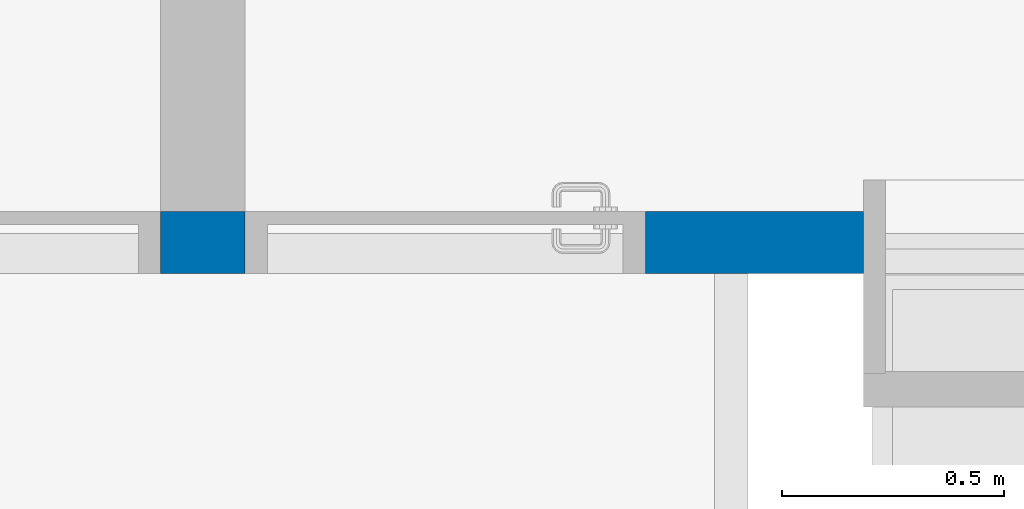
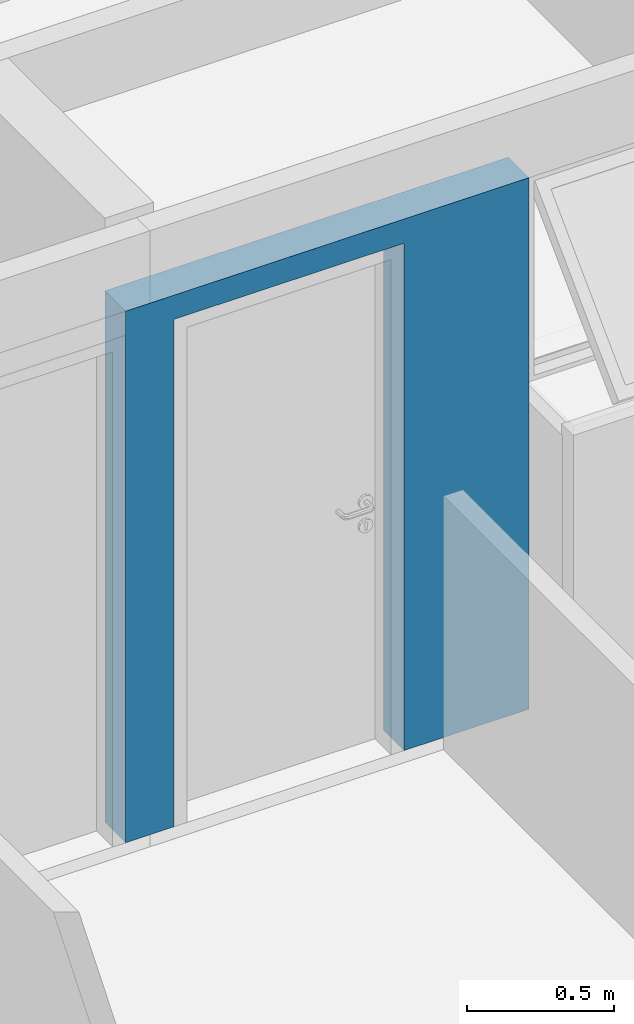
# One storey, part 36 of 40: 1 wall, 1 opening.
"""IFC4 building model written with IfcOpenShell, lengths in millimetres."""

import ifcopenshell
import ifcopenshell.guid

model = None  # the IFC model being written
_history = None  # IfcOwnerHistory: only IFC2X3 demands one
_inside = {}  # id of a spatial element -> (the spatial element, [elements in it])
_under = {}  # id of a project, library or spatial element -> (it, [spatial elements below it])
_declared = {}  # id of a project -> (the project, [libraries it declares])
_typed = {}  # id of a type object -> (the type object, [elements of that type])
_made_of = {}  # id of a material, layer set ... -> (it, [elements and type objects made of it])


def new_model(schema):
    """Start an empty IFC model of exactly this schema.

    Asked for "IFC4X3", IfcOpenShell would pick the latest addendum, in which some entities
    have other attributes; the version numbers below select the first issue.
    IFC2X3 requires an IfcOwnerHistory on every rooted entity: one is made here for all.
    """
    global model, _history
    if schema == "IFC4X3":
        model = ifcopenshell.file(schema_version=(4, 3, 0, 0))
    else:
        model = ifcopenshell.file(schema=schema)
    _inside.clear()
    _under.clear()
    _declared.clear()
    _typed.clear()
    _made_of.clear()
    _history = None
    if model.schema == "IFC2X3":
        org = make("IfcOrganization", Name="unknown")
        user = make(
            "IfcPersonAndOrganization",
            ThePerson=make("IfcPerson", FamilyName="unknown"),
            TheOrganization=org,
        )
        app = make(
            "IfcApplication",
            ApplicationDeveloper=org,
            Version="unknown",
            ApplicationFullName="unknown",
            ApplicationIdentifier="unknown",
        )
        _history = make(
            "IfcOwnerHistory",
            OwningUser=user,
            OwningApplication=app,
            ChangeAction="ADDED",
            CreationDate=0,
        )
    return model


def make(cls, **values):
    """One entity of the class cls with the attributes given. An attribute that is None is left unset."""
    return model.create_entity(
        cls, **{name: value for name, value in values.items() if value is not None}
    )


def entity(cls, *values):
    """Any entity or typed value of the class cls, its attributes in the order of the schema. None: left unset."""
    e = model.create_entity(cls)
    for i, value in enumerate(values):
        if value is not None:
            e[i] = value
    return e


def rooted(cls, **values):
    """An entity with a GlobalId (a new one), such as an element, a storey or a relation."""
    return make(cls, GlobalId=ifcopenshell.guid.new(), OwnerHistory=_history, **values)


def si_unit(unit_type, name, prefix=None):
    """IfcSIUnit, for example si_unit("LENGTHUNIT", "METRE", prefix="MILLI")."""
    return make("IfcSIUnit", UnitType=unit_type, Prefix=prefix, Name=name)


def converted_unit(unit_type, name, factor, base, dimensions=None, offset=None):
    """IfcConversionBasedUnit, such as the inch: factor (a typed value) times the base unit."""
    return make(
        "IfcConversionBasedUnit"
        if offset is None
        else "IfcConversionBasedUnitWithOffset",
        ConversionOffset=offset,
        Dimensions=None
        if dimensions is None
        else entity("IfcDimensionalExponents", *dimensions),
        UnitType=unit_type,
        Name=name,
        ConversionFactor=make(
            "IfcMeasureWithUnit", ValueComponent=factor, UnitComponent=base
        ),
    )


def derived_unit(unit_type, elements):
    """IfcDerivedUnit: a product of units, each with its exponent."""
    return make(
        "IfcDerivedUnit",
        Elements=[
            make("IfcDerivedUnitElement", Unit=unit, Exponent=power)
            for unit, power in elements
        ],
        UnitType=unit_type,
    )


def assignment(units):
    """IfcUnitAssignment: the units of a project."""
    return None if units is None else make("IfcUnitAssignment", Units=units)


def point(xyz):
    """IfcCartesianPoint."""
    return None if xyz is None else make("IfcCartesianPoint", Coordinates=xyz)


def direction(xyz):
    """IfcDirection."""
    return None if xyz is None else make("IfcDirection", DirectionRatios=xyz)


def frame(location, z_axis=None, x_axis=None):
    """IfcAxis2Placement3D, a coordinate frame: its origin and axes. An axis left out is left unset."""
    return make(
        "IfcAxis2Placement3D",
        Location=point(location),
        Axis=direction(z_axis),
        RefDirection=direction(x_axis),
    )


def frame_2d(location, x_axis=None):
    """IfcAxis2Placement2D, a coordinate frame in the plane: its origin and x axis."""
    return make(
        "IfcAxis2Placement2D", Location=point(location), RefDirection=direction(x_axis)
    )


def origin_with_axes():
    """The frame at (0, 0, 0) with the z axis (0, 0, 1) and the x axis (1, 0, 0) written out."""
    return frame((0.0, 0.0, 0.0), z_axis=(0.0, 0.0, 1.0), x_axis=(1.0, 0.0, 0.0))


def origin_2d_with_axis():
    """The frame at (0, 0) in the plane with the x axis (1, 0) written out."""
    return frame_2d((0.0, 0.0), x_axis=(1.0, 0.0))


def place(relative_to, where):
    """IfcLocalPlacement: puts the frame where relative to a parent placement (None: the world)."""
    return make(
        "IfcLocalPlacement", PlacementRelTo=relative_to, RelativePlacement=where
    )


def context(
    kind, dimensions, precision=None, world=None, true_north=None, identifier=None
):
    """IfcGeometricRepresentationContext, for example the 3D "Model" context."""
    return make(
        "IfcGeometricRepresentationContext",
        ContextIdentifier=identifier,
        ContextType=kind,
        CoordinateSpaceDimension=dimensions,
        Precision=precision,
        WorldCoordinateSystem=world,
        TrueNorth=true_north,
    )


def subcontext(parent, identifier, kind, view, scale=None):
    """IfcGeometricRepresentationSubContext, for example "Body" below "Model"."""
    return make(
        "IfcGeometricRepresentationSubContext",
        ContextIdentifier=identifier,
        ContextType=kind,
        ParentContext=parent,
        TargetScale=scale,
        TargetView=view,
    )


def project(units=None, contexts=None):
    """IfcProject with its units and contexts."""
    return rooted(
        "IfcProject",
        Name="project",
        RepresentationContexts=contexts,
        UnitsInContext=assignment(units),
    )


def spatial(cls, under=None, at=None, **own):
    """A site, building, storey or space (cls), placed at a placement, below another one or the project."""
    s = rooted(cls, ObjectPlacement=at, **own)
    if under is not None:
        _under.setdefault(under.id(), (under, []))[1].append(s)
    return s


def point_list(points):
    """IfcCartesianPointList2D or 3D."""
    cls = (
        "IfcCartesianPointList2D" if len(points[0]) == 2 else "IfcCartesianPointList3D"
    )
    return make(cls, CoordList=points)


def line(*indices):
    """IfcLineIndex: a straight run through numbered points of an indexed curve."""
    return model.create_entity("IfcLineIndex", indices)


def indexed_curve(points, segments=None, self_intersect=None):
    """IfcIndexedPolyCurve: lines and arcs through numbered points (the first is 1)."""
    return make(
        "IfcIndexedPolyCurve",
        Points=point_list(points),
        Segments=segments,
        SelfIntersect=self_intersect,
    )


def profile(cls, at=None, kind="AREA", **sizes):
    """A parametric profile (cls). Its sizes go by their IFC names, for example OverallWidth=200.0."""
    return make(cls, ProfileType=kind, Position=at, **sizes)


def rectangle(**sizes):
    """IfcRectangleProfileDef."""
    return profile("IfcRectangleProfileDef", **sizes)


def outline(outer, holes=None, kind="AREA"):
    """IfcArbitraryClosedProfileDef: a profile drawn as a closed curve; with holes, ...WithVoids."""
    if holes is None:
        return make("IfcArbitraryClosedProfileDef", ProfileType=kind, OuterCurve=outer)
    return make(
        "IfcArbitraryProfileDefWithVoids",
        ProfileType=kind,
        OuterCurve=outer,
        InnerCurves=holes,
    )


def extrude(swept, where, along, depth):
    """IfcExtrudedAreaSolid: the profile swept, set in the frame where, extruded along a direction by depth."""
    return make(
        "IfcExtrudedAreaSolid",
        SweptArea=swept,
        Position=where,
        ExtrudedDirection=direction(along),
        Depth=depth,
    )


def shape(context_of_items, identifier, shape_type, items):
    """IfcShapeRepresentation: the items that make up one representation, for example the "Body"."""
    return make(
        "IfcShapeRepresentation",
        ContextOfItems=context_of_items,
        RepresentationIdentifier=identifier,
        RepresentationType=shape_type,
        Items=items,
    )


def material(Name=None, Category=None):
    """IfcMaterial."""
    return make("IfcMaterial", Name=Name, Category=Category)


def layer(
    of_material, thickness, ventilated=None, Name=None, Category=None, Priority=None
):
    """IfcMaterialLayer: one layer of a wall or slab, of a material (None: an air gap)."""
    return make(
        "IfcMaterialLayer",
        Material=of_material,
        LayerThickness=thickness,
        IsVentilated=ventilated,
        Name=Name,
        Category=Category,
        Priority=Priority,
    )


def layer_set(layers, Name=None):
    """IfcMaterialLayerSet."""
    return make("IfcMaterialLayerSet", MaterialLayers=layers, LayerSetName=Name)


def layer_usage(for_layer_set, set_direction, sense, offset, extent=None):
    """IfcMaterialLayerSetUsage: how a layer set lies in its element."""
    return make(
        "IfcMaterialLayerSetUsage",
        ForLayerSet=for_layer_set,
        LayerSetDirection=set_direction,
        DirectionSense=sense,
        OffsetFromReferenceLine=offset,
        ReferenceExtent=extent,
    )


def made_of(thing, what):
    """Note that an element or type object is made of a material, layer set ...; save() writes the relation."""
    if what is not None:
        _made_of.setdefault(what.id(), (what, []))[1].append(thing)
    return thing


def type_object(cls, material=None, **own):
    """A type object (cls), such as IfcWallType, which elements share."""
    return made_of(rooted(cls, **own), material)


def element(
    cls,
    number,
    at=None,
    inside=None,
    cuts=None,
    type_object=None,
    material=None,
    context=None,
    identifier="Body",
    shape_type=None,
    held_by="IfcProductDefinitionShape",
    body=None,
    shapes=None,
    **own,
):
    """One element of the class cls, such as IfcWall. Its Tag is "e" and its number.

    at: its placement. inside: the storey or other place that contains it. cuts: it is an
    opening in that element (IfcRelVoidsElement). A single representation is given by context,
    identifier, shape_type and body (its items); several are given by shapes. held_by: the class
    of the entity that holds the representations. save() writes the other relations.
    """
    e = rooted(cls, Tag="e%d" % number, ObjectPlacement=at, **own)
    if body is not None:
        shapes = [shape(context, identifier, shape_type, body)]
    if shapes is not None:
        e.Representation = make(held_by, Representations=shapes)
    if inside is not None:
        _inside.setdefault(inside.id(), (inside, []))[1].append(e)
    if cuts is not None:
        rooted(
            "IfcRelVoidsElement", RelatingBuildingElement=cuts, RelatedOpeningElement=e
        )
    if type_object is not None:
        _typed.setdefault(type_object.id(), (type_object, []))[1].append(e)
    return made_of(e, material)


def aggregate(whole, parts):
    """IfcRelAggregates: a whole, such as a stair, and the parts it consists of."""
    return rooted("IfcRelAggregates", RelatingObject=whole, RelatedObjects=parts)


def save(model, path):
    """Write the relations noted so far, then the file.

    IfcRelAggregates (storeys below a building ...), IfcRelContainedInSpatialStructure (elements
    in a storey), IfcRelDefinesByType, IfcRelAssociatesMaterial and IfcRelDeclares: one each for
    every whole, place, type object, material and project.
    """
    for whole, parts in _under.values():
        aggregate(whole, parts)
    for where, things in _inside.values():
        rooted(
            "IfcRelContainedInSpatialStructure",
            RelatedElements=things,
            RelatingStructure=where,
        )
    for kind, things in _typed.values():
        rooted("IfcRelDefinesByType", RelatedObjects=things, RelatingType=kind)
    for what, things in _made_of.values():
        rooted("IfcRelAssociatesMaterial", RelatedObjects=things, RelatingMaterial=what)
    for by, libraries in _declared.values():
        rooted("IfcRelDeclares", RelatingContext=by, RelatedDefinitions=libraries)
    model.write(path)


model = new_model("IFC4")

# Units and contexts
model_context = context("Model", 3, precision=0.01, world=origin_with_axes(), true_north=direction((0.0, 1.0)))
body_context = subcontext(model_context, "Body", "Model", "MODEL_VIEW")
ifc_project = project(units=[si_unit("LENGTHUNIT", "METRE", prefix="MILLI"), si_unit("AREAUNIT", "SQUARE_METRE"), si_unit("VOLUMEUNIT", "CUBIC_METRE"), converted_unit("PLANEANGLEUNIT", "DEGREE", entity("IfcPlaneAngleMeasure", 0.0174532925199), si_unit("PLANEANGLEUNIT", "RADIAN"), dimensions=[0, 0, 0, 0, 0, 0, 0]), converted_unit("TIMEUNIT", "Year", entity("IfcTimeMeasure", 31556926.0), si_unit("TIMEUNIT", "SECOND"), dimensions=[0, 0, 1, 0, 0, 0, 0]), si_unit("MASSUNIT", "GRAM", prefix="KILO"), si_unit("THERMODYNAMICTEMPERATUREUNIT", "DEGREE_CELSIUS"), si_unit("LUMINOUSINTENSITYUNIT", "LUMEN"), si_unit("ENERGYUNIT", "JOULE", prefix="MEGA"), derived_unit("THERMALCONDUCTANCEUNIT", [(si_unit("POWERUNIT", "WATT"), 1), (si_unit("LENGTHUNIT", "METRE"), -1), (si_unit("THERMODYNAMICTEMPERATUREUNIT", "KELVIN"), -1)]), derived_unit("SPECIFICHEATCAPACITYUNIT", [(si_unit("ENERGYUNIT", "JOULE"), 1), (si_unit("MASSUNIT", "GRAM", prefix="KILO"), -1), (si_unit("THERMODYNAMICTEMPERATUREUNIT", "KELVIN"), -1)]), derived_unit("MASSDENSITYUNIT", [(si_unit("MASSUNIT", "GRAM", prefix="KILO"), 1), (si_unit("VOLUMEUNIT", "CUBIC_METRE"), -1)])], contexts=[model_context])

# Site, building, storey
site_placement = place(None, origin_with_axes())
site = spatial("IfcSite", under=ifc_project, at=site_placement, Name="Local", CompositionType="ELEMENT")
building_placement = place(site_placement, origin_with_axes())
building = spatial("IfcBuilding", under=site, at=building_placement, Name="Construção", CompositionType="ELEMENT")
storey_placement = place(building_placement, frame((0.0, 0.0, 5300.0), z_axis=(0.0, 0.0, 1.0), x_axis=(1.0, 0.0, 0.0)))
storey = spatial("IfcBuildingStorey", under=building, at=storey_placement, Name="Terceiro Pavimento", CompositionType="ELEMENT", Elevation=5300.0)

# Wall, opening
ifc_material = material(Name="GENÉRICO - VEDAÇÃO EXTERNA")
ifc_layer = layer(ifc_material, 140.0, ventilated="UNKNOWN", Name="GENÉRICO - VEDAÇÃO EXTERNA")
ifc_layer_set = layer_set([ifc_layer], Name="GENÉRICO - VEDAÇÃO EXTERNA 140")
ifc_layer_usage = layer_usage(ifc_layer_set, "AXIS2", "NEGATIVE", 0.0)
wall_type = type_object("IfcWallType", Name="GENÉRICO - VEDAÇÃO EXTERNA 140", PredefinedType="NOTDEFINED")
wall_placement = place(storey_placement, frame((7290.0, 18035.0, 0.0), z_axis=(0.0, 0.0, 1.0), x_axis=(1.0, 0.0, 0.0)))
wall = element("IfcWall", 1, at=wall_placement, inside=storey, type_object=wall_type, material=ifc_layer_usage, Name="APTO12-PAREDE-004", PredefinedType="NOTDEFINED", context=body_context, shape_type="SweptSolid", body=[
    extrude(outline(indexed_curve([(0.0, -140.0), (1580.0, -140.0), (1580.0, 0.0), (0.0, 0.0)], segments=[line(1, 2, 3, 4, 1)])), origin_with_axes(), (0.0, 0.0, 1.0), 2200.0),
])
opening_placement = place(wall_placement, frame((640.0, 0.0, 0.0), z_axis=(0.0, 0.0, 1.0), x_axis=(1.0, 0.0, 0.0)))
element("IfcOpeningElement", 2, at=opening_placement, cuts=wall, Name="APTO12-PORTA-004", context=body_context, shape_type="SweptSolid", body=[
    extrude(rectangle(XDim=900.0, YDim=2100.0, at=origin_2d_with_axis()), frame((0.0, 140.0, 1050.0), z_axis=(0.0, 1.0, 0.0), x_axis=(-1.0, 0.0, 0.0)), (0.0, 0.0, -1.0), 420.0),
])

save(model, "model.ifc")
